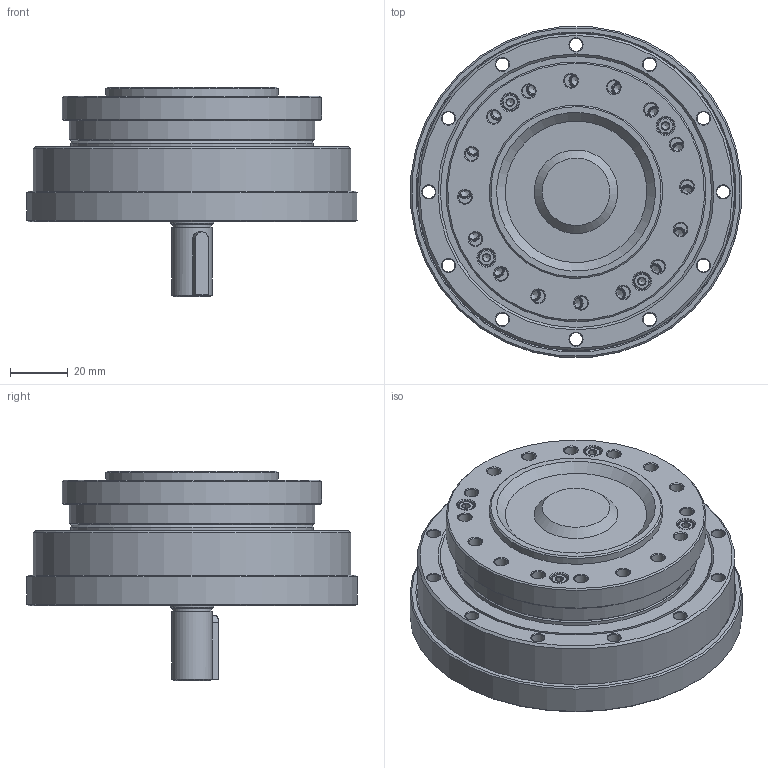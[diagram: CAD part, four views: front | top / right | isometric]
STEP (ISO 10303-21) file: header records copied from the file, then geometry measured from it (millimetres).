
FILE_DESCRIPTION(/* description */ (''),/* implementation_level */ '2;1');
FILE_NAME(/* name */ 'LHT-25-XX-U-IV.stp',/* time_stamp */ '2023-07-29T10:58:03+08:00',/* author */ (''),/* organization */ (''),/* preprocessor_version */ 'ST-DEVELOPER v16.7',/* originating_system */ 'SIEMENS PLM Software NX 12.0',/* authorisation */ '');
FILE_SCHEMA (('AUTOMOTIVE_DESIGN { 1 0 10303 214 3 1 1 1 }'));
Length unit declared in the file: millimetre
Products named in the file (21): EB456009-25KC-46; EB456009-25KC-01; TC-84x94x5; GB-T276_60000_2Z-1994,61900_2Z; GB-T276_60000_2Z-1994,6002_2Z; SC-15x25x5; C型平键5x5x22; LHT-25-00-IV下壳体; LHT-25-00-IV上壳体; LHT-25-XX-IV-带键; GB-T70.1-2000,M3x16; 内六角平圆头螺钉M3x10; 内六角平圆头螺钉M3x8; O-68x1; O-90x1.5; GB-T70.1-2000,M3x12; 柔轮LHT-25; 刚轮LHT-25; EB456009-25KC; 交叉轴承LHT-25; LHT-25-XX-U-IV
Assembly tree (32 placements, depth 3):
  LHT-25-XX-U-IV
    交叉轴承LHT-25
      TC-84x94x5
    刚轮LHT-25
    柔轮LHT-25
    EB456009-25KC
      EB456009-25KC-01
      EB456009-25KC-46
    GB-T70.1-2000,M3x12  x4
    O-90x1.5
    O-68x1
    内六角平圆头螺钉M3x8  x4
    内六角平圆头螺钉M3x10  x4
    GB-T70.1-2000,M3x16  x4
    LHT-25-XX-IV-带键
    LHT-25-00-IV上壳体
    LHT-25-00-IV下壳体
    C型平键5x5x22
    SC-15x25x5
    GB-T276_60000_2Z-1994,6002_2Z
    GB-T276_60000_2Z-1994,61900_2Z
Bounding box: 114.56 x 114.56 x 72.5 mm (x, y, z)
Volume: 257482.5 mm3; surface area: 170155.1 mm2
Topology: 79 solids, 79 shells, 1367 faces, 3061 edges, 1846 vertices
Faces by surface type: cone 474, plane 403, cylinder 324, torus 122, sphere 40, revolution 2, bspline 2
Full cylindrical faces by diameter (mm): 2.5 x16, 2.874 x16, 3.3 x16, 3.5 x24, 4.2 x12, 4.5 x68, 5.5 x16, 6 x16, 9 x6, 9.5 x1, 10 x2, 13 x1, 13.5 x1, 14 x3, 14.3 x1, 14.5 x1, 15 x4, 15.6 x2, 18 x2, 18.5 x1, 20 x1, 20.667 x2, 22 x2, 22.933 x2, 25 x2, 26.333 x2, 28 x1, 32 x3, 33.7 x1, 42 x1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
Entity records: 30537 total; most frequent: CARTESIAN_POINT 8984, DIRECTION 4581, ORIENTED_EDGE 2908, AXIS2_PLACEMENT_3D 2190, EDGE_LOOP 1928, FACE_BOUND 1762, EDGE_CURVE 1454, VERTEX_POINT 1301
